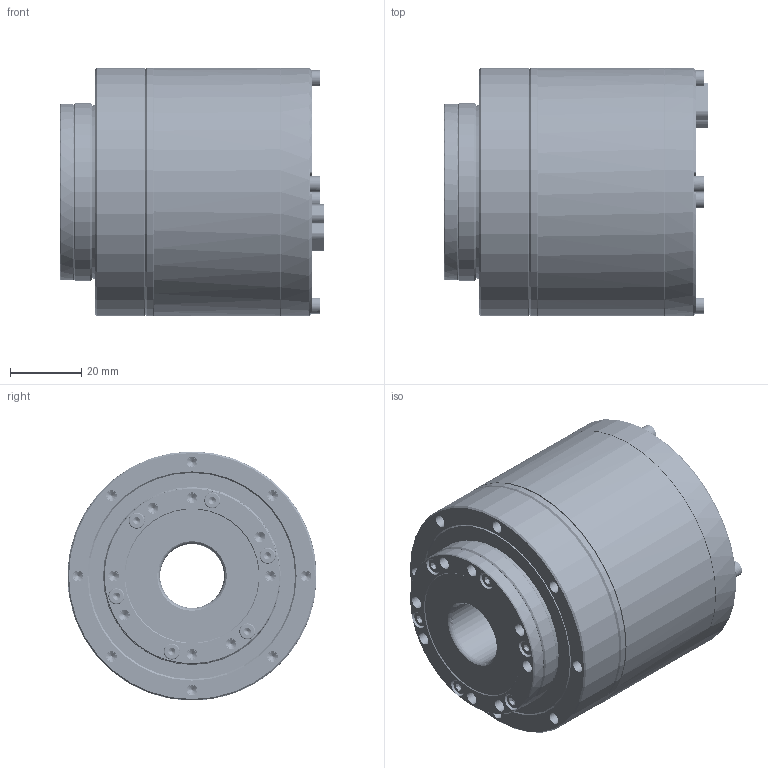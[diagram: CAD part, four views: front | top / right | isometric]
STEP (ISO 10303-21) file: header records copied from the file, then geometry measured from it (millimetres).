
FILE_DESCRIPTION (( 'STEP AP203' ), '1' );
FILE_NAME ('eRob70H｡ﾁ｡ﾁI-XX-18CX_V5_MC2D.DX.XX.STEP', '2024-07-04T02:16:48', ( 'Windows User' ), ( 'P R C' ), 'SwSTEP 2.0', 'SolidWorks 2021', '' );
FILE_SCHEMA (( 'CONFIG_CONTROL_DESIGN' ));
Length unit declared in the file: millimetre
Products named in the file (1): eRob70H××I-XX-18CX_V5_MC2D.DX.XX
Bounding box: 74.4 x 70 x 70 mm (x, y, z)
Volume: 230450.6 mm3; surface area: 35354.4 mm2
Topology: 1 solids, 1 shells, 2791 faces, 7411 edges, 4864 vertices
Faces by surface type: plane 1941, bspline 388, cylinder 378, cone 68, torus 16
Full cylindrical faces by diameter (mm): 1.5 x2, 1.6 x3, 2.1 x2, 2.5 x24, 3.5 x16, 3.6 x8, 4.5 x10, 5 x6, 18 x1, 49.6 x1, 50 x1, 58 x1, 70 x3
Entity records: 192977 total; most frequent: CARTESIAN_POINT 127042, ORIENTED_EDGE 14380, DIRECTION 11885, EDGE_CURVE 7190, VECTOR 5383, LINE 5383, VERTEX_POINT 4780, AXIS2_PLACEMENT_3D 3251
